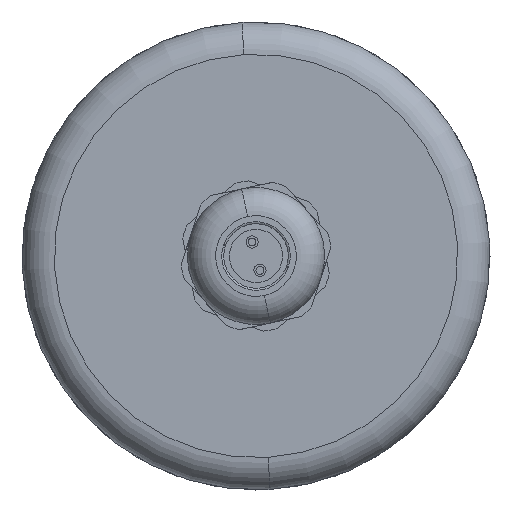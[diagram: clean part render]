
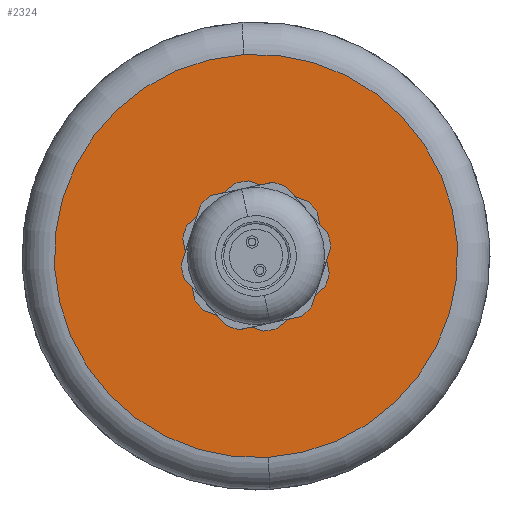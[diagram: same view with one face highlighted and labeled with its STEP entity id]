
A CAD part, left-side view. The second image highlights one B-rep face of the part: STEP entity #2324.
In plain terms, the highlighted planar face has unit normal (-1, 0, 0).
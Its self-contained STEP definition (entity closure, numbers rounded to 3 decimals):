
#289 = EDGE_CURVE ( 'NONE', #1390, #809, #1239, .T. ) ;
#378 = ORIENTED_EDGE ( 'NONE', *, *, #3569, .T. ) ;
#490 = FACE_BOUND ( 'NONE', #2868, .T. ) ;
#594 = CARTESIAN_POINT ( 'NONE',  ( -25., -0.456, -7.586 ) ) ;
#725 = AXIS2_PLACEMENT_3D ( 'NONE', #4361, #1877, #4770 ) ;
#809 = VERTEX_POINT ( 'NONE', #594 ) ;
#900 = AXIS2_PLACEMENT_3D ( 'NONE', #4027, #1532, #4444 ) ;
#908 = CIRCLE ( 'NONE', #900, 25. ) ;
#971 = CARTESIAN_POINT ( 'NONE',  ( -25., -1.499, -24.955 ) ) ;
#1239 = CIRCLE ( 'NONE', #725, 7.6 ) ;
#1275 = EDGE_LOOP ( 'NONE', ( #378, #4018 ) ) ;
#1390 = VERTEX_POINT ( 'NONE', #1640 ) ;
#1532 = DIRECTION ( 'NONE',  ( -1., 0., 0. ) ) ;
#1640 = CARTESIAN_POINT ( 'NONE',  ( -25., 0.456, 7.586 ) ) ;
#1740 = CIRCLE ( 'NONE', #3274, 7.6 ) ;
#1877 = DIRECTION ( 'NONE',  ( -1., 0., 0. ) ) ;
#1923 = CARTESIAN_POINT ( 'NONE',  ( -25., 0., 0. ) ) ;
#2019 = DIRECTION ( 'NONE',  ( -1., 0., 0. ) ) ;
#2086 = CARTESIAN_POINT ( 'NONE',  ( -25., 0., 0. ) ) ;
#2324 = ADVANCED_FACE ( 'NONE', ( #490, #3841 ), #4964, .F. ) ;
#2337 = DIRECTION ( 'NONE',  ( 0., 0.06, 0.998 ) ) ;
#2504 = DIRECTION ( 'NONE',  ( 0., -0.06, -0.998 ) ) ;
#2725 = CIRCLE ( 'NONE', #3488, 25. ) ;
#2868 = EDGE_LOOP ( 'NONE', ( #4079, #4522 ) ) ;
#2895 = VERTEX_POINT ( 'NONE', #4661 ) ;
#3274 = AXIS2_PLACEMENT_3D ( 'NONE', #1923, #4817, #2337 ) ;
#3488 = AXIS2_PLACEMENT_3D ( 'NONE', #4496, #2019, #4902 ) ;
#3569 = EDGE_CURVE ( 'NONE', #4714, #2895, #908, .T. ) ;
#3841 = FACE_OUTER_BOUND ( 'NONE', #1275, .T. ) ;
#4018 = ORIENTED_EDGE ( 'NONE', *, *, #5332, .T. ) ;
#4027 = CARTESIAN_POINT ( 'NONE',  ( -25., 0., 0. ) ) ;
#4079 = ORIENTED_EDGE ( 'NONE', *, *, #289, .F. ) ;
#4104 = AXIS2_PLACEMENT_3D ( 'NONE', #2086, #4983, #2504 ) ;
#4361 = CARTESIAN_POINT ( 'NONE',  ( -25., 0., 0. ) ) ;
#4444 = DIRECTION ( 'NONE',  ( 0., -0.06, -0.998 ) ) ;
#4496 = CARTESIAN_POINT ( 'NONE',  ( -25., 0., 0. ) ) ;
#4500 = EDGE_CURVE ( 'NONE', #809, #1390, #1740, .T. ) ;
#4522 = ORIENTED_EDGE ( 'NONE', *, *, #4500, .F. ) ;
#4661 = CARTESIAN_POINT ( 'NONE',  ( -25., 1.499, 24.955 ) ) ;
#4714 = VERTEX_POINT ( 'NONE', #971 ) ;
#4770 = DIRECTION ( 'NONE',  ( 0., 0.06, 0.998 ) ) ;
#4817 = DIRECTION ( 'NONE',  ( -1., 0., 0. ) ) ;
#4902 = DIRECTION ( 'NONE',  ( 0., -0.06, -0.998 ) ) ;
#4964 = PLANE ( 'NONE',  #4104 ) ;
#4983 = DIRECTION ( 'NONE',  ( 1., 0., 0. ) ) ;
#5332 = EDGE_CURVE ( 'NONE', #2895, #4714, #2725, .T. ) ;
